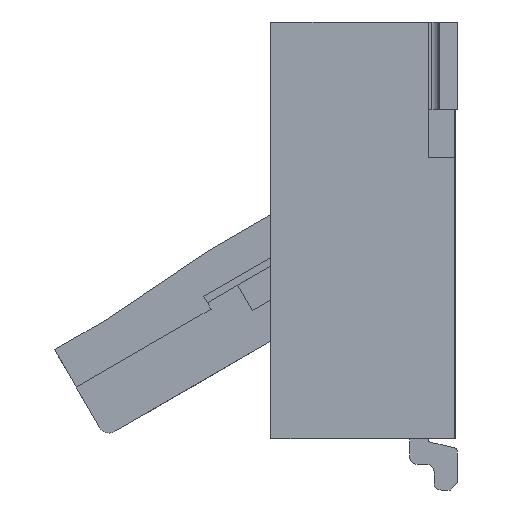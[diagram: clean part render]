
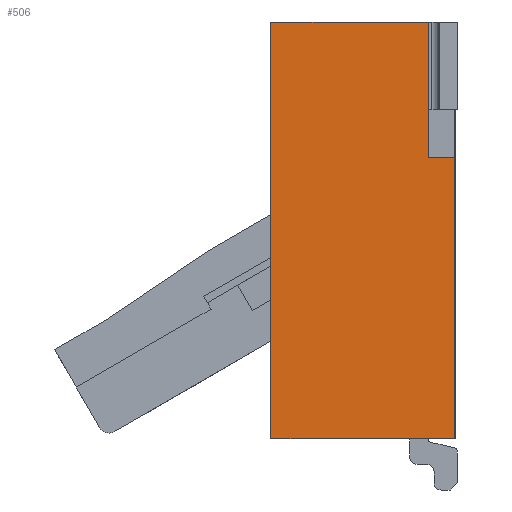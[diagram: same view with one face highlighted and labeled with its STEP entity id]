
A CAD part, left-side view. The second image highlights one B-rep face of the part: STEP entity #506.
In plain terms, the highlighted planar face has unit normal (-1, 0, 0).
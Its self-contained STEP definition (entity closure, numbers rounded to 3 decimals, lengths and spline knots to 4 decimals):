
#462 = VERTEX_POINT ( 'NONE', #30088 ) ;
#506 = ADVANCED_FACE ( 'NONE', ( #11989 ), #6956, .F. ) ;
#1765 = CARTESIAN_POINT ( 'NONE',  ( -12.45, -0.36, 0. ) ) ;
#1994 = LINE ( 'NONE', #50361, #11757 ) ;
#3913 = CARTESIAN_POINT ( 'NONE',  ( -12.45, 1.89, 0. ) ) ;
#5726 = CARTESIAN_POINT ( 'NONE',  ( -12.45, 0., 5.7 ) ) ;
#6718 = LINE ( 'NONE', #53228, #22486 ) ;
#6796 = VERTEX_POINT ( 'NONE', #49607 ) ;
#6956 = PLANE ( 'NONE',  #34142 ) ;
#7332 = DIRECTION ( 'NONE',  ( 0., 0., -1. ) ) ;
#11757 = VECTOR ( 'NONE', #40700, 1000. ) ;
#11971 = CARTESIAN_POINT ( 'NONE',  ( -12.45, -0.38, 5.7 ) ) ;
#11989 = FACE_OUTER_BOUND ( 'NONE', #45652, .T. ) ;
#15798 = ORIENTED_EDGE ( 'NONE', *, *, #60292, .F. ) ;
#16445 = VECTOR ( 'NONE', #39333, 1000. ) ;
#16727 = DIRECTION ( 'NONE',  ( 1., 0., 0. ) ) ;
#16890 = VERTEX_POINT ( 'NONE', #29597 ) ;
#17406 = LINE ( 'NONE', #47704, #41561 ) ;
#17689 = ORIENTED_EDGE ( 'NONE', *, *, #49743, .F. ) ;
#18074 = DIRECTION ( 'NONE',  ( 0., 1., 0. ) ) ;
#21904 = LINE ( 'NONE', #50610, #33284 ) ;
#22486 = VECTOR ( 'NONE', #24435, 1000. ) ;
#23721 = DIRECTION ( 'NONE',  ( 0., 0., 1. ) ) ;
#24435 = DIRECTION ( 'NONE',  ( 0., -1., 0. ) ) ;
#25483 = CARTESIAN_POINT ( 'NONE',  ( -12.45, 0., 5.7 ) ) ;
#29448 = ORIENTED_EDGE ( 'NONE', *, *, #48408, .F. ) ;
#29597 = CARTESIAN_POINT ( 'NONE',  ( -12.45, 2.15, 0. ) ) ;
#29843 = EDGE_CURVE ( 'NONE', #60963, #16890, #40171, .T. ) ;
#30088 = CARTESIAN_POINT ( 'NONE',  ( -12.45, 0., 3.845 ) ) ;
#30244 = VERTEX_POINT ( 'NONE', #55493 ) ;
#33284 = VECTOR ( 'NONE', #7332, 1000. ) ;
#34142 = AXIS2_PLACEMENT_3D ( 'NONE', #11971, #16727, #50446 ) ;
#34399 = ORIENTED_EDGE ( 'NONE', *, *, #29843, .F. ) ;
#35339 = ORIENTED_EDGE ( 'NONE', *, *, #44833, .F. ) ;
#39333 = DIRECTION ( 'NONE',  ( 0., 0., -1. ) ) ;
#40171 = LINE ( 'NONE', #3913, #51453 ) ;
#40700 = DIRECTION ( 'NONE',  ( 0., -1., 0. ) ) ;
#41360 = VERTEX_POINT ( 'NONE', #25483 ) ;
#41561 = VECTOR ( 'NONE', #23721, 1000. ) ;
#44833 = EDGE_CURVE ( 'NONE', #6796, #41360, #6718, .T. ) ;
#45652 = EDGE_LOOP ( 'NONE', ( #35339, #29448, #34399, #51490, #15798, #17689 ) ) ;
#47704 = CARTESIAN_POINT ( 'NONE',  ( -12.45, 2.15, 0. ) ) ;
#48408 = EDGE_CURVE ( 'NONE', #16890, #6796, #17406, .T. ) ;
#48774 = EDGE_CURVE ( 'NONE', #30244, #60963, #21904, .T. ) ;
#49607 = CARTESIAN_POINT ( 'NONE',  ( -12.45, 2.15, 5.7 ) ) ;
#49743 = EDGE_CURVE ( 'NONE', #41360, #462, #56399, .T. ) ;
#50361 = CARTESIAN_POINT ( 'NONE',  ( -12.45, 0., 3.845 ) ) ;
#50446 = DIRECTION ( 'NONE',  ( 0., 0., -1. ) ) ;
#50610 = CARTESIAN_POINT ( 'NONE',  ( -12.45, -0.36, 5.7 ) ) ;
#51453 = VECTOR ( 'NONE', #18074, 1000. ) ;
#51490 = ORIENTED_EDGE ( 'NONE', *, *, #48774, .F. ) ;
#53228 = CARTESIAN_POINT ( 'NONE',  ( -12.45, 2.15, 5.7 ) ) ;
#55493 = CARTESIAN_POINT ( 'NONE',  ( -12.45, -0.36, 3.845 ) ) ;
#56399 = LINE ( 'NONE', #5726, #16445 ) ;
#60292 = EDGE_CURVE ( 'NONE', #462, #30244, #1994, .T. ) ;
#60963 = VERTEX_POINT ( 'NONE', #1765 ) ;
